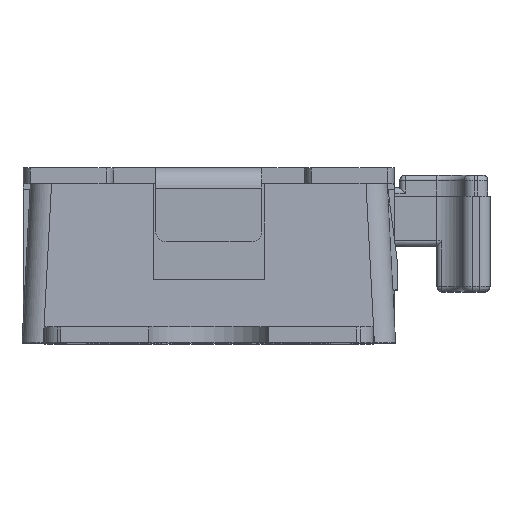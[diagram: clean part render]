
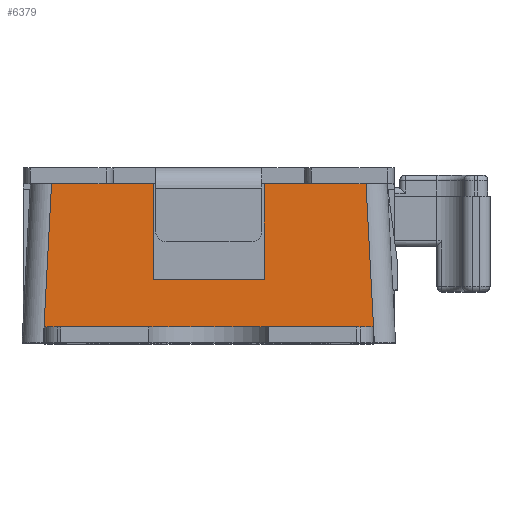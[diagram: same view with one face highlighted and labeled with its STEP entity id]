
A CAD part, top view. The second image highlights one B-rep face of the part: STEP entity #6379.
In plain terms, the highlighted planar face has unit normal (0, 0.035, 0.999).
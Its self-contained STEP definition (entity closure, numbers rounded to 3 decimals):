
#47=DIRECTION('',(1.,0.,0.));
#48=VECTOR('',#47,0.011);
#49=CARTESIAN_POINT('',(-1.56,0.,2.76));
#50=LINE('',#49,#48);
#72=DIRECTION('',(1.,0.,0.));
#73=VECTOR('',#72,0.01);
#74=CARTESIAN_POINT('',(1.551,0.,2.76));
#75=LINE('',#74,#73);
#867=CARTESIAN_POINT('',(1.56,0.,2.76));
#869=DIRECTION('',(-0.052,0.998,-0.035));
#870=VECTOR('',#869,1.503);
#871=CARTESIAN_POINT('',(1.56,0.,2.76));
#872=LINE('',#871,#870);
#873=DIRECTION('',(-1.,0.,0.));
#874=VECTOR('',#873,0.55);
#875=CARTESIAN_POINT('',(1.481,1.5,2.708));
#876=LINE('',#875,#874);
#877=DIRECTION('',(-1.,0.,0.));
#878=VECTOR('',#877,0.55);
#879=CARTESIAN_POINT('',(-0.931,1.5,2.708));
#880=LINE('',#879,#878);
#881=DIRECTION('',(0.,0.999,-0.035));
#882=VECTOR('',#881,0.901);
#883=CARTESIAN_POINT('',(-0.525,0.6,2.739));
#884=LINE('',#883,#882);
#885=DIRECTION('',(1.,0.,0.));
#886=VECTOR('',#885,1.05);
#887=CARTESIAN_POINT('',(-0.525,0.6,2.739));
#888=LINE('',#887,#886);
#889=DIRECTION('',(0.,0.999,-0.035));
#890=VECTOR('',#889,0.901);
#891=CARTESIAN_POINT('',(0.525,0.6,2.739));
#892=LINE('',#891,#890);
#893=DIRECTION('',(0.,-0.999,0.035));
#894=VECTOR('',#893,0.15);
#895=CARTESIAN_POINT('',(1.551,0.15,2.755));
#896=LINE('',#895,#894);
#969=DIRECTION('',(0.,-0.999,0.035));
#970=VECTOR('',#969,0.15);
#971=CARTESIAN_POINT('',(-1.55,0.15,2.755));
#972=LINE('',#971,#970);
#973=DIRECTION('',(1.,0.,0.));
#974=VECTOR('',#973,3.1);
#975=CARTESIAN_POINT('',(-1.55,0.15,2.755));
#976=LINE('',#975,#974);
#1008=DIRECTION('',(0.052,0.998,-0.035));
#1009=VECTOR('',#1008,1.503);
#1010=CARTESIAN_POINT('',(-1.56,0.,2.76));
#1011=LINE('',#1010,#1009);
#1012=CARTESIAN_POINT('',(-1.56,0.,2.76));
#1911=DIRECTION('',(1.,0.,0.));
#1912=VECTOR('',#1911,0.406);
#1913=CARTESIAN_POINT('',(0.525,1.5,2.708));
#1914=LINE('',#1913,#1912);
#1979=DIRECTION('',(1.,0.,0.));
#1980=VECTOR('',#1979,0.406);
#1981=CARTESIAN_POINT('',(-0.931,1.5,2.708));
#1982=LINE('',#1981,#1980);
#4438=CARTESIAN_POINT('',(0.525,0.6,2.739));
#4439=CARTESIAN_POINT('',(0.525,1.5,2.708));
#4440=VERTEX_POINT('',#4438);
#4441=VERTEX_POINT('',#4439);
#4442=CARTESIAN_POINT('',(-0.525,0.6,2.739));
#4443=CARTESIAN_POINT('',(-0.525,1.5,2.708));
#4444=VERTEX_POINT('',#4442);
#4445=VERTEX_POINT('',#4443);
#4476=VERTEX_POINT('',#1012);
#4479=VERTEX_POINT('',#867);
#4536=CARTESIAN_POINT('',(-1.55,0.15,2.755));
#4537=CARTESIAN_POINT('',(1.551,0.15,2.755));
#4538=VERTEX_POINT('',#4536);
#4539=VERTEX_POINT('',#4537);
#4544=CARTESIAN_POINT('',(1.551,0.,2.76));
#4545=VERTEX_POINT('',#4544);
#4548=CARTESIAN_POINT('',(-1.55,0.,2.76));
#4549=VERTEX_POINT('',#4548);
#5208=CARTESIAN_POINT('',(0.931,1.5,2.708));
#5209=VERTEX_POINT('',#5208);
#5210=CARTESIAN_POINT('',(-0.931,1.5,2.708));
#5211=VERTEX_POINT('',#5210);
#5334=CARTESIAN_POINT('',(1.481,1.5,2.708));
#5335=VERTEX_POINT('',#5334);
#5336=CARTESIAN_POINT('',(-1.481,1.5,2.708));
#5337=VERTEX_POINT('',#5336);
#6348=CARTESIAN_POINT('',(-2.841,0.,2.76));
#6349=DIRECTION('',(0.,0.035,0.999));
#6350=DIRECTION('',(-1.,0.,0.));
#6351=AXIS2_PLACEMENT_3D('',#6348,#6349,#6350);
#6352=PLANE('',#6351);
#6353=ORIENTED_EDGE('',*,*,#6236,.F.);
#6354=ORIENTED_EDGE('',*,*,#6343,.F.);
#6355=ORIENTED_EDGE('',*,*,#5401,.F.);
#6357=ORIENTED_EDGE('',*,*,#6356,.F.);
#6359=ORIENTED_EDGE('',*,*,#6358,.F.);
#6361=ORIENTED_EDGE('',*,*,#6360,.T.);
#6362=ORIENTED_EDGE('',*,*,#5381,.F.);
#6364=ORIENTED_EDGE('',*,*,#6363,.T.);
#6366=ORIENTED_EDGE('',*,*,#6365,.F.);
#6368=ORIENTED_EDGE('',*,*,#6367,.T.);
#6370=ORIENTED_EDGE('',*,*,#6369,.F.);
#6372=ORIENTED_EDGE('',*,*,#6371,.T.);
#6374=ORIENTED_EDGE('',*,*,#6373,.T.);
#6376=ORIENTED_EDGE('',*,*,#6375,.T.);
#6377=EDGE_LOOP('',(#6353,#6354,#6355,#6357,#6359,#6361,#6362,#6364,#6366,#6368,
#6370,#6372,#6374,#6376));
#6378=FACE_OUTER_BOUND('',#6377,.F.);
#6379=ADVANCED_FACE('',(#6378),#6352,.T.);
#5381=EDGE_CURVE('',#4476,#4549,#50,.T.);
#5401=EDGE_CURVE('',#4545,#4479,#75,.T.);
#6236=EDGE_CURVE('',#5335,#5209,#876,.T.);
#6343=EDGE_CURVE('',#4479,#5335,#872,.T.);
#6356=EDGE_CURVE('',#4539,#4545,#896,.T.);
#6358=EDGE_CURVE('',#4538,#4539,#976,.T.);
#6360=EDGE_CURVE('',#4538,#4549,#972,.T.);
#6363=EDGE_CURVE('',#4476,#5337,#1011,.T.);
#6365=EDGE_CURVE('',#5211,#5337,#880,.T.);
#6367=EDGE_CURVE('',#5211,#4445,#1982,.T.);
#6369=EDGE_CURVE('',#4444,#4445,#884,.T.);
#6371=EDGE_CURVE('',#4444,#4440,#888,.T.);
#6373=EDGE_CURVE('',#4440,#4441,#892,.T.);
#6375=EDGE_CURVE('',#4441,#5209,#1914,.T.);
